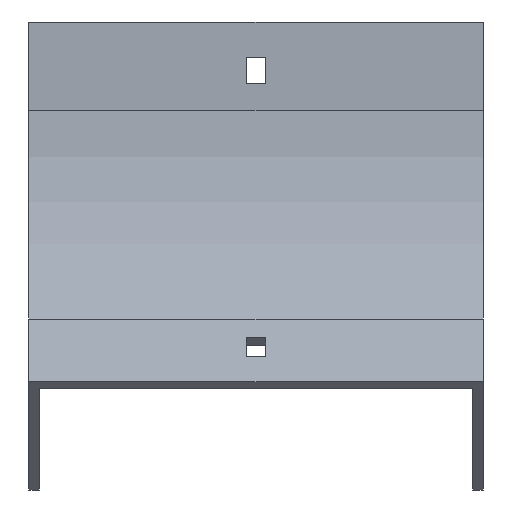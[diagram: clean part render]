
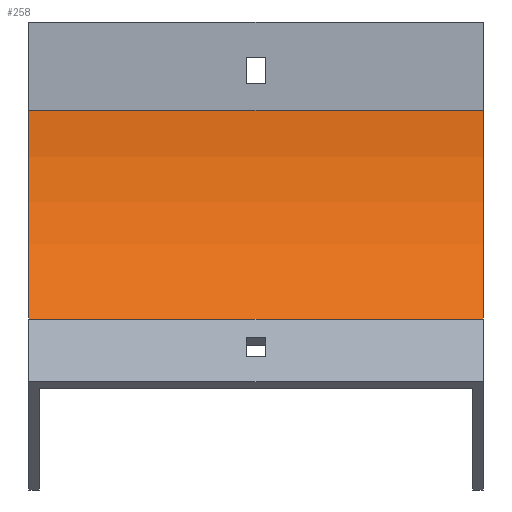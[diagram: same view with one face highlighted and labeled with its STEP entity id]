
A CAD part, front view. The second image highlights one B-rep face of the part: STEP entity #258.
In plain terms, the highlighted cylindrical face has radius 100 mm (diameter 200 mm), a partial arc.
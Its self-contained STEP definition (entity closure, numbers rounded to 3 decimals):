
#82 = VERTEX_POINT ( 'NONE', #1194 ) ;
#107 = VERTEX_POINT ( 'NONE', #182 ) ;
#125 = EDGE_LOOP ( 'NONE', ( #651, #136, #555, #913 ) ) ;
#128 = FACE_OUTER_BOUND ( 'NONE', #125, .T. ) ;
#133 = CARTESIAN_POINT ( 'NONE',  ( 77., -29.289, -100.711 ) ) ;
#134 = DIRECTION ( 'NONE',  ( -1., 0., 0. ) ) ;
#136 = ORIENTED_EDGE ( 'NONE', *, *, #911, .F. ) ;
#174 = VECTOR ( 'NONE', #208, 1000. ) ;
#175 = CARTESIAN_POINT ( 'NONE',  ( 77., -100., -30. ) ) ;
#182 = CARTESIAN_POINT ( 'NONE',  ( 77., 0., -30. ) ) ;
#208 = DIRECTION ( 'NONE',  ( -1., 0., 0. ) ) ;
#224 = EDGE_CURVE ( 'NONE', #1047, #82, #333, .T. ) ;
#258 = ADVANCED_FACE ( 'NONE', ( #128 ), #658, .F. ) ;
#297 = CIRCLE ( 'NONE', #407, 100. ) ;
#308 = CARTESIAN_POINT ( 'NONE',  ( 77., 0., -30. ) ) ;
#333 = CIRCLE ( 'NONE', #392, 100. ) ;
#383 = CARTESIAN_POINT ( 'NONE',  ( 77., -29.289, -100.711 ) ) ;
#392 = AXIS2_PLACEMENT_3D ( 'NONE', #1198, #134, #875 ) ;
#407 = AXIS2_PLACEMENT_3D ( 'NONE', #175, #905, #812 ) ;
#469 = DIRECTION ( 'NONE',  ( -1., 0., 0. ) ) ;
#501 = CARTESIAN_POINT ( 'NONE',  ( -77., 0., -30. ) ) ;
#528 = AXIS2_PLACEMENT_3D ( 'NONE', #558, #889, #582 ) ;
#555 = ORIENTED_EDGE ( 'NONE', *, *, #1010, .F. ) ;
#558 = CARTESIAN_POINT ( 'NONE',  ( 77., -100., -30. ) ) ;
#582 = DIRECTION ( 'NONE',  ( 0., 0., 1. ) ) ;
#651 = ORIENTED_EDGE ( 'NONE', *, *, #224, .T. ) ;
#658 = CYLINDRICAL_SURFACE ( 'NONE', #528, 100. ) ;
#780 = LINE ( 'NONE', #133, #827 ) ;
#812 = DIRECTION ( 'NONE',  ( 0., 0., 1. ) ) ;
#827 = VECTOR ( 'NONE', #469, 1000. ) ;
#875 = DIRECTION ( 'NONE',  ( 0., 0., 1. ) ) ;
#889 = DIRECTION ( 'NONE',  ( -1., 0., 0. ) ) ;
#905 = DIRECTION ( 'NONE',  ( -1., 0., 0. ) ) ;
#911 = EDGE_CURVE ( 'NONE', #1084, #82, #780, .T. ) ;
#913 = ORIENTED_EDGE ( 'NONE', *, *, #1354, .T. ) ;
#1010 = EDGE_CURVE ( 'NONE', #107, #1084, #297, .T. ) ;
#1047 = VERTEX_POINT ( 'NONE', #501 ) ;
#1084 = VERTEX_POINT ( 'NONE', #383 ) ;
#1194 = CARTESIAN_POINT ( 'NONE',  ( -77., -29.289, -100.711 ) ) ;
#1198 = CARTESIAN_POINT ( 'NONE',  ( -77., -100., -30. ) ) ;
#1354 = EDGE_CURVE ( 'NONE', #107, #1047, #1379, .T. ) ;
#1379 = LINE ( 'NONE', #308, #174 ) ;
